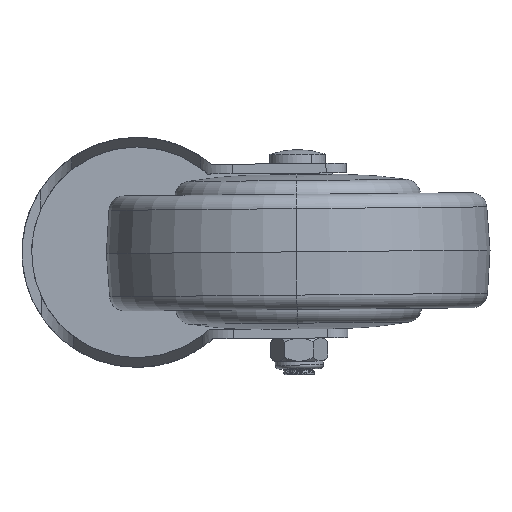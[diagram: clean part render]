
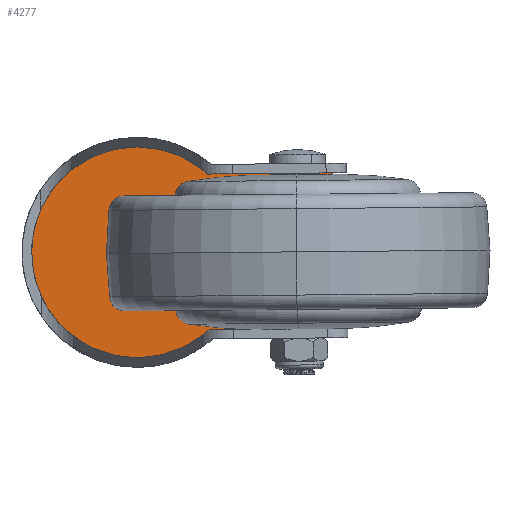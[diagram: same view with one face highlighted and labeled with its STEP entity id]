
A CAD part, front view. The second image highlights one B-rep face of the part: STEP entity #4277.
In plain terms, the highlighted planar face has unit normal (0, -1, 0).
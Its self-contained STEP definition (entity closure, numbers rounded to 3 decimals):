
#287 = VECTOR ( 'NONE', #6506, 1000. ) ;
#449 = ORIENTED_EDGE ( 'NONE', *, *, #5559, .T. ) ;
#1071 = VERTEX_POINT ( 'NONE', #12556 ) ;
#1925 = ORIENTED_EDGE ( 'NONE', *, *, #21302, .F. ) ;
#2026 = DIRECTION ( 'NONE',  ( 0., 0., 1. ) ) ;
#2184 = CARTESIAN_POINT ( 'NONE',  ( -51.125, -2.5, -30. ) ) ;
#3563 = DIRECTION ( 'NONE',  ( 0., 1., 0. ) ) ;
#3791 = CIRCLE ( 'NONE', #24106, 27.5 ) ;
#4277 = ADVANCED_FACE ( 'NONE', ( #17011, #13252 ), #23826, .F. ) ;
#5346 = AXIS2_PLACEMENT_3D ( 'NONE', #28969, #3563, #12564 ) ;
#5559 = EDGE_CURVE ( 'NONE', #6357, #16011, #21484, .T. ) ;
#6357 = VERTEX_POINT ( 'NONE', #10595 ) ;
#6506 = DIRECTION ( 'NONE',  ( 0., 0., 1. ) ) ;
#6519 = DIRECTION ( 'NONE',  ( 0., 1., 0. ) ) ;
#7128 = CIRCLE ( 'NONE', #11849, 6.15 ) ;
#7732 = EDGE_CURVE ( 'NONE', #21964, #10619, #25111, .T. ) ;
#8421 = CARTESIAN_POINT ( 'NONE',  ( 0., -2.5, 0. ) ) ;
#8985 = DIRECTION ( 'NONE',  ( 0., 0., 1. ) ) ;
#9457 = ORIENTED_EDGE ( 'NONE', *, *, #12094, .F. ) ;
#9460 = CARTESIAN_POINT ( 'NONE',  ( 0., -2.5, -6.15 ) ) ;
#9743 = EDGE_CURVE ( 'NONE', #28612, #29167, #3791, .T. ) ;
#10595 = CARTESIAN_POINT ( 'NONE',  ( -51.125, -2.5, -20.25 ) ) ;
#10619 = VERTEX_POINT ( 'NONE', #9460 ) ;
#10922 = DIRECTION ( 'NONE',  ( 0., 1., 0. ) ) ;
#10923 = AXIS2_PLACEMENT_3D ( 'NONE', #8421, #13268, #2026 ) ;
#11849 = AXIS2_PLACEMENT_3D ( 'NONE', #27228, #6519, #22459 ) ;
#12094 = EDGE_CURVE ( 'NONE', #29167, #16011, #18940, .T. ) ;
#12556 = CARTESIAN_POINT ( 'NONE',  ( -18.606, -2.5, 20.25 ) ) ;
#12564 = DIRECTION ( 'NONE',  ( 0., 0., 1. ) ) ;
#12728 = ORIENTED_EDGE ( 'NONE', *, *, #7732, .T. ) ;
#13035 = EDGE_LOOP ( 'NONE', ( #12728, #18643 ) ) ;
#13252 = FACE_OUTER_BOUND ( 'NONE', #20897, .T. ) ;
#13268 = DIRECTION ( 'NONE',  ( 0., 1., 0. ) ) ;
#13472 = CARTESIAN_POINT ( 'NONE',  ( 0., -2.5, -27.5 ) ) ;
#14082 = LINE ( 'NONE', #24883, #26665 ) ;
#14531 = EDGE_CURVE ( 'NONE', #10619, #21964, #7128, .T. ) ;
#14663 = CARTESIAN_POINT ( 'NONE',  ( 0., -2.5, 0. ) ) ;
#14809 = VERTEX_POINT ( 'NONE', #24668 ) ;
#15686 = VECTOR ( 'NONE', #17044, 1000. ) ;
#16011 = VERTEX_POINT ( 'NONE', #24740 ) ;
#16301 = DIRECTION ( 'NONE',  ( 1., 0., 0. ) ) ;
#17011 = FACE_BOUND ( 'NONE', #13035, .T. ) ;
#17026 = DIRECTION ( 'NONE',  ( 0., 0., 1. ) ) ;
#17044 = DIRECTION ( 'NONE',  ( 1., 0., 0. ) ) ;
#17596 = AXIS2_PLACEMENT_3D ( 'NONE', #21582, #10922, #26630 ) ;
#17723 = LINE ( 'NONE', #2184, #287 ) ;
#18373 = ORIENTED_EDGE ( 'NONE', *, *, #9743, .F. ) ;
#18643 = ORIENTED_EDGE ( 'NONE', *, *, #14531, .T. ) ;
#18842 = DIRECTION ( 'NONE',  ( 0., 1., 0. ) ) ;
#18940 = CIRCLE ( 'NONE', #10923, 27.5 ) ;
#19272 = CARTESIAN_POINT ( 'NONE',  ( -55., -2.5, -20.25 ) ) ;
#19310 = ORIENTED_EDGE ( 'NONE', *, *, #25108, .F. ) ;
#20897 = EDGE_LOOP ( 'NONE', ( #1925, #449, #9457, #18373, #19310, #23204 ) ) ;
#21302 = EDGE_CURVE ( 'NONE', #6357, #14809, #17723, .T. ) ;
#21484 = LINE ( 'NONE', #19272, #15686 ) ;
#21582 = CARTESIAN_POINT ( 'NONE',  ( 0., -2.5, 0. ) ) ;
#21964 = VERTEX_POINT ( 'NONE', #28971 ) ;
#22459 = DIRECTION ( 'NONE',  ( 0., 0., 1. ) ) ;
#23204 = ORIENTED_EDGE ( 'NONE', *, *, #27987, .F. ) ;
#23826 = PLANE ( 'NONE',  #5346 ) ;
#24106 = AXIS2_PLACEMENT_3D ( 'NONE', #27052, #18842, #8985 ) ;
#24668 = CARTESIAN_POINT ( 'NONE',  ( -51.125, -2.5, 20.25 ) ) ;
#24702 = CIRCLE ( 'NONE', #17596, 27.5 ) ;
#24740 = CARTESIAN_POINT ( 'NONE',  ( -18.606, -2.5, -20.25 ) ) ;
#24883 = CARTESIAN_POINT ( 'NONE',  ( 0., -2.5, 20.25 ) ) ;
#25108 = EDGE_CURVE ( 'NONE', #1071, #28612, #24702, .T. ) ;
#25111 = CIRCLE ( 'NONE', #25595, 6.15 ) ;
#25595 = AXIS2_PLACEMENT_3D ( 'NONE', #14663, #28451, #17026 ) ;
#26630 = DIRECTION ( 'NONE',  ( 0., 0., 1. ) ) ;
#26665 = VECTOR ( 'NONE', #16301, 1000. ) ;
#27052 = CARTESIAN_POINT ( 'NONE',  ( 0., -2.5, 0. ) ) ;
#27228 = CARTESIAN_POINT ( 'NONE',  ( 0., -2.5, 0. ) ) ;
#27820 = CARTESIAN_POINT ( 'NONE',  ( 0., -2.5, 27.5 ) ) ;
#27987 = EDGE_CURVE ( 'NONE', #14809, #1071, #14082, .T. ) ;
#28451 = DIRECTION ( 'NONE',  ( 0., 1., 0. ) ) ;
#28612 = VERTEX_POINT ( 'NONE', #27820 ) ;
#28969 = CARTESIAN_POINT ( 'NONE',  ( 0., -2.5, 0. ) ) ;
#28971 = CARTESIAN_POINT ( 'NONE',  ( 0., -2.5, 6.15 ) ) ;
#29167 = VERTEX_POINT ( 'NONE', #13472 ) ;
